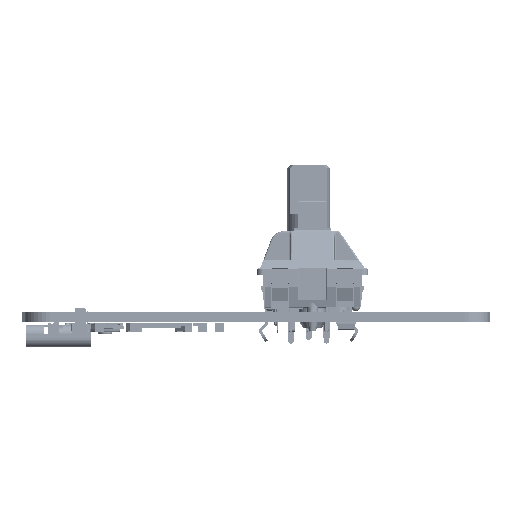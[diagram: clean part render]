
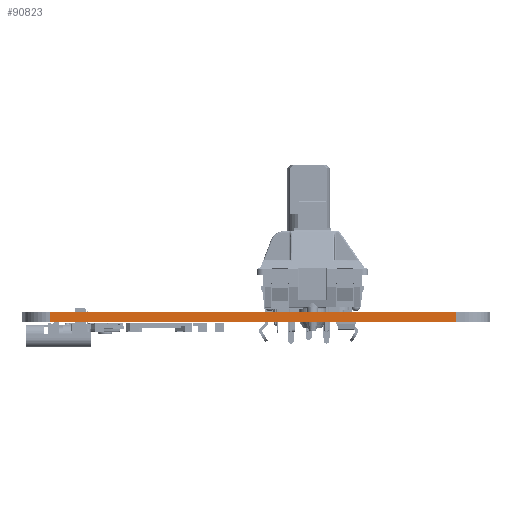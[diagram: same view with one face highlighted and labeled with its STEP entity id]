
A CAD part, left-side view. The second image highlights one B-rep face of the part: STEP entity #90823.
In plain terms, the highlighted planar face has unit normal (-1, -0.003, 0).
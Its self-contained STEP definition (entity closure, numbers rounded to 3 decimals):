
#88772 = VERTEX_POINT('',#88773);
#88773 = CARTESIAN_POINT('',(63.023,-48.171,0.));
#88780 = EDGE_CURVE('',#88781,#88772,#88783,.T.);
#88781 = VERTEX_POINT('',#88782);
#88782 = CARTESIAN_POINT('',(63.173,-105.321,0.));
#88783 = LINE('',#88784,#88785);
#88784 = CARTESIAN_POINT('',(63.173,-105.321,0.));
#88785 = VECTOR('',#88786,1.);
#88786 = DIRECTION('',(-0.003,1.,0.));
#89784 = VERTEX_POINT('',#89785);
#89785 = CARTESIAN_POINT('',(63.023,-48.171,1.51));
#89792 = EDGE_CURVE('',#89793,#89784,#89795,.T.);
#89793 = VERTEX_POINT('',#89794);
#89794 = CARTESIAN_POINT('',(63.173,-105.321,1.51));
#89795 = LINE('',#89796,#89797);
#89796 = CARTESIAN_POINT('',(63.173,-105.321,1.51));
#89797 = VECTOR('',#89798,1.);
#89798 = DIRECTION('',(-0.003,1.,0.));
#90793 = EDGE_CURVE('',#88772,#89784,#90794,.T.);
#90794 = LINE('',#90795,#90796);
#90795 = CARTESIAN_POINT('',(63.023,-48.171,0.));
#90796 = VECTOR('',#90797,1.);
#90797 = DIRECTION('',(0.,0.,1.));
#90823 = ADVANCED_FACE('',(#90824),#90835,.T.);
#90824 = FACE_BOUND('',#90825,.T.);
#90825 = EDGE_LOOP('',(#90826,#90832,#90833,#90834));
#90826 = ORIENTED_EDGE('',*,*,#90827,.T.);
#90827 = EDGE_CURVE('',#88781,#89793,#90828,.T.);
#90828 = LINE('',#90829,#90830);
#90829 = CARTESIAN_POINT('',(63.173,-105.321,0.));
#90830 = VECTOR('',#90831,1.);
#90831 = DIRECTION('',(0.,0.,1.));
#90832 = ORIENTED_EDGE('',*,*,#89792,.T.);
#90833 = ORIENTED_EDGE('',*,*,#90793,.F.);
#90834 = ORIENTED_EDGE('',*,*,#88780,.F.);
#90835 = PLANE('',#90836);
#90836 = AXIS2_PLACEMENT_3D('',#90837,#90838,#90839);
#90837 = CARTESIAN_POINT('',(63.173,-105.321,0.));
#90838 = DIRECTION('',(-1.,-0.003,0.));
#90839 = DIRECTION('',(-0.003,1.,0.));
